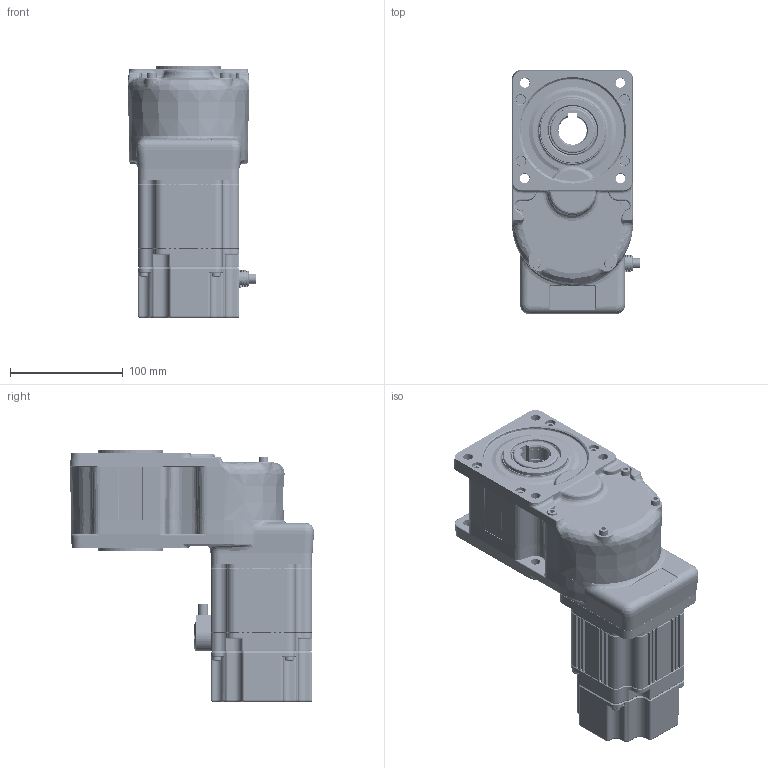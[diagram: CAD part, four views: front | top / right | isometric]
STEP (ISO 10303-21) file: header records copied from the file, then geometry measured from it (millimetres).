
FILE_DESCRIPTION (( 'STEP AP214' ), '1' );
FILE_NAME ('BL90M,Encoder,Signal Cable 180deg+GBF,20,Cable 90deg,Hollow Shaft_3D-06-S0399.STEP', '2019-05-03T08:17:08', ( '' ), ( '' ), 'SwSTEP 2.0', 'SolidWorks 2016', '' );
FILE_SCHEMA (( 'AUTOMOTIVE_DESIGN' ));
Length unit declared in the file: millimetre
Products named in the file (13): GB5XXF-軸承-01; BL90N,Encoder,Signal Cable 180deg_BL90M,encoder; GB5XXF-軸承-02; GB5XXF-鍵槽套筒; GB5XXF-TC; BL90M,Encoder,Signal Cable 180deg+GBF,20,Cable 90deg,Hollow Shaft_3D-06-S0399; BL90-EnCoder_encoder; GB5XXF-BC; 03-GB5^F; BL90-MAIN_BODY-90度出口線_BL90M, L=87.5mm; GB5XXF-沉頭螺絲組; GB5XXF-油壓封墊; GB5XXF-Rubber_Ring
Assembly tree (12 placements, depth 3):
  BL90M,Encoder,Signal Cable 180deg+GBF,20,Cable 90deg,Hollow Shaft_3D-06-S0399
    03-GB5^F
      GB5XXF-BC
      GB5XXF-Rubber_Ring
      GB5XXF-TC
      GB5XXF-沉頭螺絲組
      GB5XXF-油壓封墊
      GB5XXF-軸承-01
      GB5XXF-軸承-02
      GB5XXF-鍵槽套筒
    BL90N,Encoder,Signal Cable 180deg_BL90M,encoder
      BL90-MAIN_BODY-90度出口線_BL90M, L=87.5mm
      BL90-EnCoder_encoder
Bounding box: 113.8 x 216.54 x 224 mm (x, y, z)
Volume: 1493880.4 mm3; surface area: 325171.2 mm2
Topology: 17 solids, 18 shells, 2671 faces, 6523 edges, 3869 vertices
Faces by surface type: plane 759, cylinder 733, bspline 695, cone 405, torus 55, sphere 24
Full cylindrical faces by diameter (mm): 3 x4, 3.3 x8, 3.4 x2, 5 x151, 5.4 x2, 5.5 x8, 8 x4, 8.5 x16, 8.9 x2, 9 x5, 16 x1, 19.8 x1, 30 x1, 32 x1, 45 x1, 52 x1, 58 x1, 62 x1, 83 x1, 83.5 x1, 87 x1
Entity records: 135548 total; most frequent: CARTESIAN_POINT 82845, ORIENTED_EDGE 11566, DIRECTION 9681, EDGE_CURVE 5783, AXIS2_PLACEMENT_3D 3668, VERTEX_POINT 3536, EDGE_LOOP 2841, FACE_OUTER_BOUND 2620
